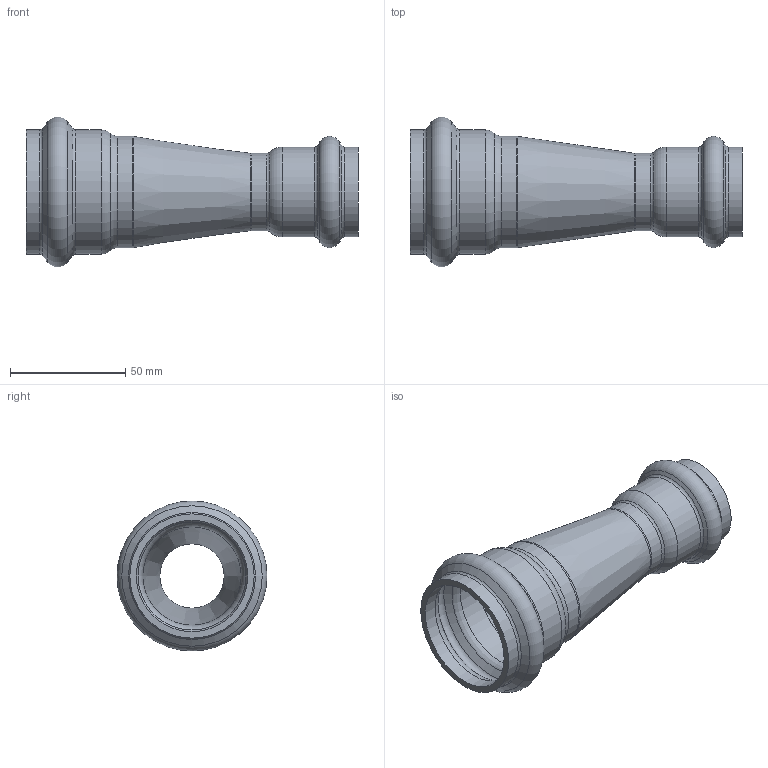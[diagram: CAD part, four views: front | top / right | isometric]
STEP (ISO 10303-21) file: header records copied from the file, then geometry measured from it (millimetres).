
FILE_DESCRIPTION(/* description */ ('VIC REDUCER CONC. STYLE P594 (P X P)','CAx-IF Rec.Pracs.---Representation and Presentation of Product Manufacturing Information (PMI)---4.0---2014-10-13'),/* implementation_level */ '2;1');
FILE_NAME(/* name */ 'C:\Users\Vjadhav\AppData\Roaming\Autodesk\ApplicationPlugins\Back Up\Victaulic_SS-Vic-Press-TP 304_Reducer Concentric_Style P594 (VP)\Victaulic_SS-Vic-Press-TP 304_Reducer Concentric_Style P594 (VP)_01.5x01.0 (40x25).stp',/* time_stamp */ '2020-08-12T18:14:56+06:00',/* author */ ('cgray'),/* organization */ ('Victaulic'),/* preprocessor_version */ 'ST-DEVELOPER v17.2',/* originating_system */ 'Autodesk Inventor 2019',/* authorisation */ '');
FILE_SCHEMA (('AP242_MANAGED_MODEL_BASED_3D_ENGINEERING_MIM_LF { 1 0 10303 442 1 1 4 }'));
Length unit declared in the file: inch
Products named in the file (1): P594-01.5x01.0
Bounding box: 143.76 x 64.94 x 64.94 mm (x, y, z)
Volume: 56513.3 mm3; surface area: 41710.8 mm2
Topology: 1 solids, 1 shells, 48 faces, 182 edges, 136 vertices
Faces by surface type: torus 24, cylinder 12, cone 10, plane 2
Full cylindrical faces by diameter (mm): 27.864 x1, 33.401 x3, 38.938 x2, 42.723 x1, 48.26 x3, 53.797 x2
Entity records: 2282 total; most frequent: DIRECTION 466, CARTESIAN_POINT 384, ORIENTED_EDGE 364, AXIS2_PLACEMENT_3D 222, EDGE_CURVE 182, CIRCLE 160, VERTEX_POINT 136, EDGE_LOOP 50
